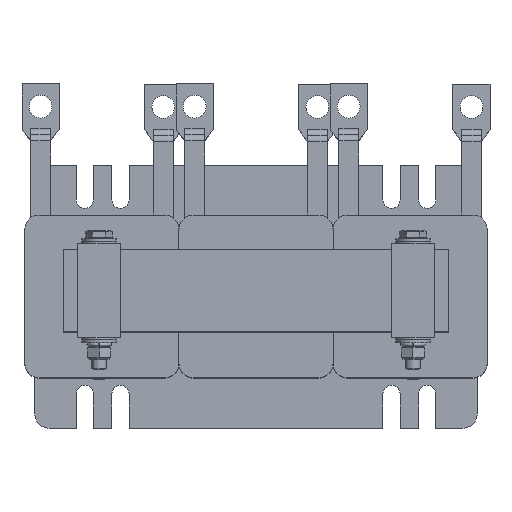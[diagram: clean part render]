
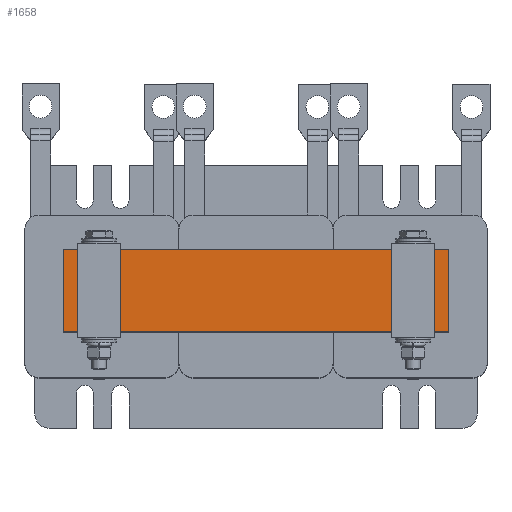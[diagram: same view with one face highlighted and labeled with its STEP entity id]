
A CAD part, top view. The second image highlights one B-rep face of the part: STEP entity #1658.
In plain terms, the highlighted planar face has unit normal (0, 0, 1).
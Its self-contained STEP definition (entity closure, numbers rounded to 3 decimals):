
#1658=ADVANCED_FACE('',(#2424),#2426,.T.);
#2424=FACE_BOUND('',#2425,.T.);
#2425=EDGE_LOOP('',(#3458,#3459,#3460,#3461));
#2426=PLANE('',#2427);
#2427=AXIS2_PLACEMENT_3D('',#2428,#2429,#2430);
#2428=CARTESIAN_POINT('',(0.,0.,22.));
#2429=DIRECTION('',(0.,0.,1.));
#2430=DIRECTION('',(-1.,0.,0.));
#3458=ORIENTED_EDGE('',*,*,#3982,.T.);
#3459=ORIENTED_EDGE('',*,*,#3976,.T.);
#3460=ORIENTED_EDGE('',*,*,#3983,.T.);
#3461=ORIENTED_EDGE('',*,*,#3970,.T.);
#3970=EDGE_CURVE('',#4504,#4502,#4505,.T.);
#3976=EDGE_CURVE('',#4516,#4514,#4517,.T.);
#3982=EDGE_CURVE('',#4502,#4516,#4525,.T.);
#3983=EDGE_CURVE('',#4514,#4504,#4526,.T.);
#4502=VERTEX_POINT('',#5652);
#4504=VERTEX_POINT('',#5656);
#4505=LINE('',#5657,#5658);
#4514=VERTEX_POINT('',#5678);
#4516=VERTEX_POINT('',#5682);
#4517=LINE('',#5683,#5684);
#4525=LINE('',#5705,#5706);
#4526=LINE('',#5708,#5709);
#5652=CARTESIAN_POINT('',(-67.5,14.5,22.));
#5656=CARTESIAN_POINT('',(67.5,14.5,22.));
#5657=CARTESIAN_POINT('',(67.5,14.5,22.));
#5658=VECTOR('',#5659,1.);
#5659=DIRECTION('',(-1.,0.,0.));
#5678=CARTESIAN_POINT('',(67.5,-14.5,22.));
#5682=CARTESIAN_POINT('',(-67.5,-14.5,22.));
#5683=CARTESIAN_POINT('',(-67.5,-14.5,22.));
#5684=VECTOR('',#5685,1.);
#5685=DIRECTION('',(1.,0.,0.));
#5705=CARTESIAN_POINT('',(-67.5,14.5,22.));
#5706=VECTOR('',#5707,1.);
#5707=DIRECTION('',(0.,-1.,0.));
#5708=CARTESIAN_POINT('',(67.5,-14.5,22.));
#5709=VECTOR('',#5710,1.);
#5710=DIRECTION('',(0.,1.,0.));
